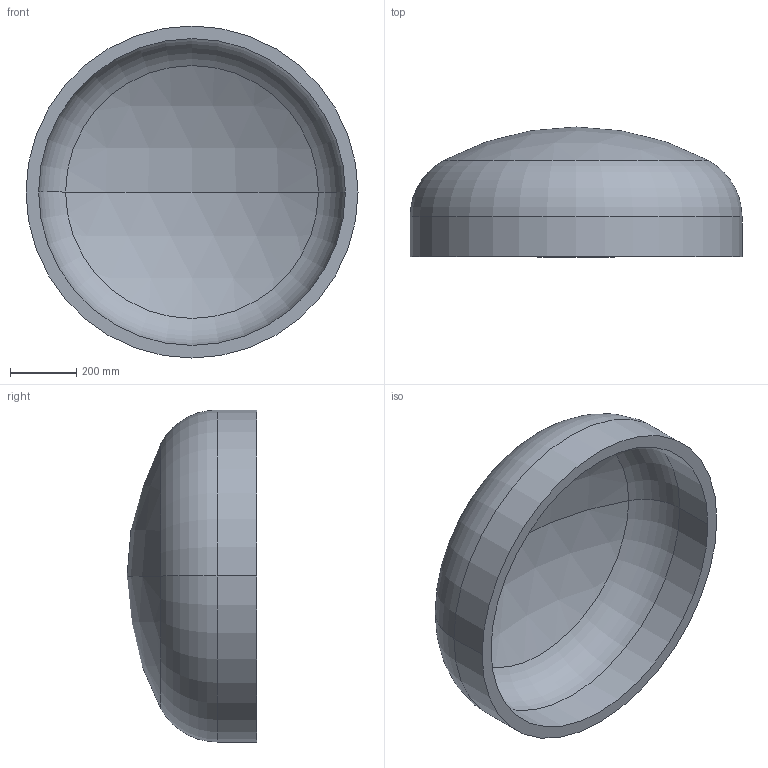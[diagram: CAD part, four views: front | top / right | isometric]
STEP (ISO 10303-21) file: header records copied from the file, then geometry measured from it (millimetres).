
FILE_DESCRIPTION (( 'STEP AP203' ), '1' );
FILE_NAME ('DIN 28013 Korbbogenform_-_Boden DIN 28013 - 1000 x 120 - I - s=38.step', '2016-07-01T08:48:13', ( '' ), ( '' ), 'SwSTEP 2.0', 'SolidWorks 2013', '' );
FILE_SCHEMA (( 'CONFIG_CONTROL_DESIGN' ));
Length unit declared in the file: millimetre
Products named in the file (1): DIN 28013 Korbbogenform_-_Boden DIN 28013 - 1000 x 120 - I - s=38
Bounding box: 1000 x 390.75 x 1000 mm (x, y, z)
Volume: 53179002.5 mm3; surface area: 2916762.6 mm2
Topology: 1 solids, 1 shells, 13 faces, 24 edges, 14 vertices
Faces by surface type: torus 4, cylinder 4, sphere 4, plane 1
Entity records: 407 total; most frequent: DIRECTION 72, CARTESIAN_POINT 52, ORIENTED_EDGE 48, AXIS2_PLACEMENT_3D 34, EDGE_CURVE 24, CIRCLE 20, VERTEX_POINT 14, EDGE_LOOP 14
